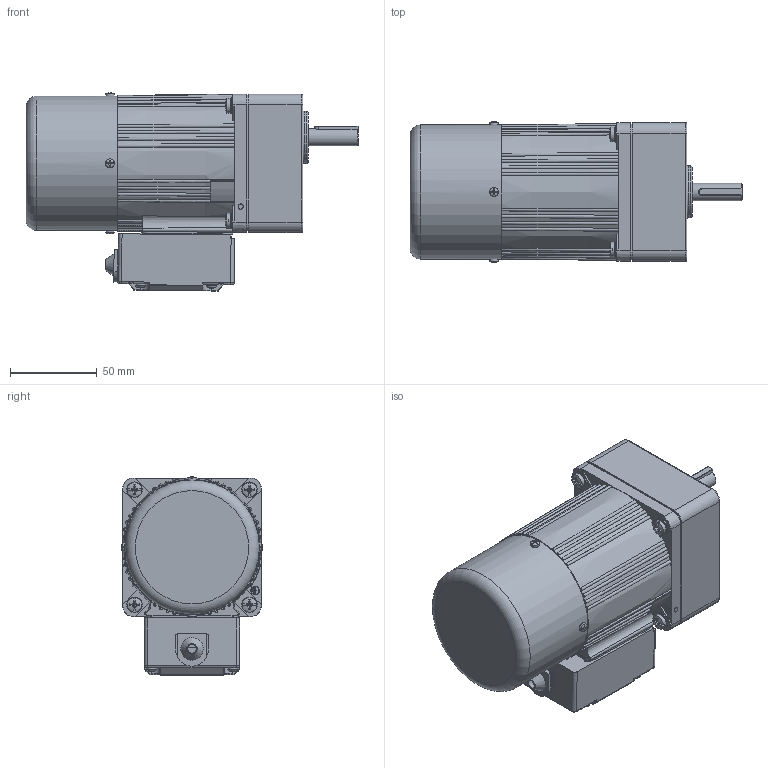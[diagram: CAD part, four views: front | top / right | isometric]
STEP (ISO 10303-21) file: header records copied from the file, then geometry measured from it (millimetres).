
FILE_DESCRIPTION(/* description */ (''),/* implementation_level */ '2;1');
FILE_NAME(/* name */ '4RK25-40GNC·TM-4GN3-20K-C·10L长款接线盒.stp',/* time_stamp */ '2025-04-13T15:14:29+08:00',/* author */ (''),/* organization */ (''),/* preprocessor_version */ 'ST-DEVELOPER v18.102',/* originating_system */ 'SIEMENS PLM Software NX 2027',/* authorisation */ '');
FILE_SCHEMA (('AP203_CONFIGURATION_CONTROLLED_3D_DESIGN_OF_MECHANICAL_PARTS_AND_ASSEMBLIES_MIM_LF { 1 0 10303 403 2 1 2}'));
Products named in the file (1): 4RK25-40CC·M-4GN3-20K-C·10L_stp_M066263C6523mtou
Bounding box: 191.8 x 81.3 x 114.48 mm (x, y, z)
Volume: 878749.8 mm3; surface area: 121710.8 mm2
Topology: 10 solids, 10 shells, 1509 faces, 3983 edges, 2550 vertices
Faces by surface type: plane 609, cylinder 371, bspline 303, torus 92, cone 90, sphere 40, revolution 4
Full cylindrical faces by diameter (mm): 2.2 x2, 2.9 x4, 3 x1, 3.5 x2, 4 x1, 4.2 x5, 4.4 x1, 4.6 x4, 4.8 x1, 5 x5, 5.1 x4, 5.3 x4, 5.6 x4, 6 x6, 6.5 x4, 7 x1, 8 x1, 8.2 x1, 8.5 x4, 9 x4, 10 x3, 10.5 x1, 19 x1, 26 x1, 30 x1, 56 x1, 67 x1, 75 x2, 77.5 x1
Entity records: 52805 total; most frequent: CARTESIAN_POINT 19015, ORIENTED_EDGE 7506, DIRECTION 5883, EDGE_CURVE 3753, VERTEX_POINT 2485, AXIS2_PLACEMENT_3D 2234, EDGE_LOOP 1762, ADVANCED_FACE 1506
